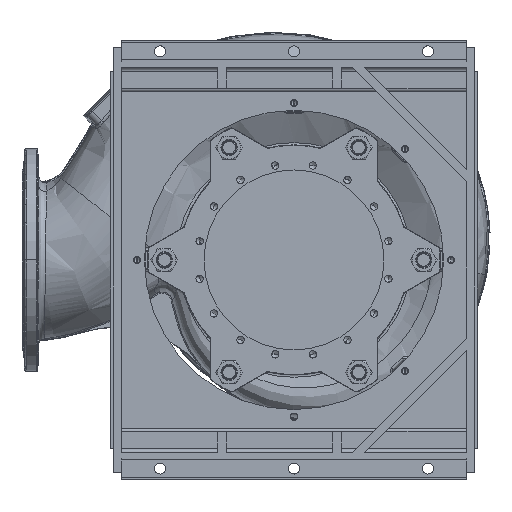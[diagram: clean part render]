
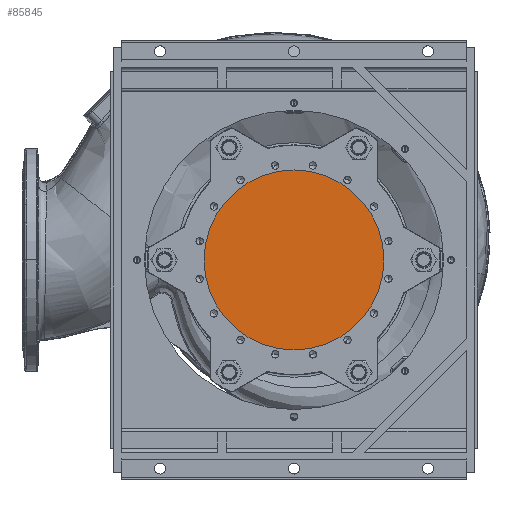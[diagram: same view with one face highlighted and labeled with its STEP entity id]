
A CAD part, front view. The second image highlights one B-rep face of the part: STEP entity #85845.
In plain terms, the highlighted planar face has unit normal (0, -1, 0).
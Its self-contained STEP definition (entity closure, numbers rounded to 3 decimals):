
#225 = CIRCLE ( 'NONE', #126031, 215. ) ;
#2918 = FACE_OUTER_BOUND ( 'NONE', #149643, .T. ) ;
#12629 = ORIENTED_EDGE ( 'NONE', *, *, #55683, .T. ) ;
#19045 = ORIENTED_EDGE ( 'NONE', *, *, #254585, .T. ) ;
#41255 = CIRCLE ( 'NONE', #111239, 215. ) ;
#55683 = EDGE_CURVE ( 'NONE', #208111, #197271, #41255, .T. ) ;
#57157 = DIRECTION ( 'NONE',  ( 0., -1., 0. ) ) ;
#85845 = ADVANCED_FACE ( 'NONE', ( #2918 ), #213766, .T. ) ;
#91008 = DIRECTION ( 'NONE',  ( 0., -1., 0. ) ) ;
#109439 = AXIS2_PLACEMENT_3D ( 'NONE', #175052, #57157, #194811 ) ;
#111239 = AXIS2_PLACEMENT_3D ( 'NONE', #112817, #250422, #132654 ) ;
#112817 = CARTESIAN_POINT ( 'NONE',  ( 0., -639.494, 0. ) ) ;
#126031 = AXIS2_PLACEMENT_3D ( 'NONE', #209015, #91008, #228751 ) ;
#132654 = DIRECTION ( 'NONE',  ( 0., 0., 1. ) ) ;
#149643 = EDGE_LOOP ( 'NONE', ( #19045, #12629 ) ) ;
#166161 = CARTESIAN_POINT ( 'NONE',  ( 0., -639.494, -215. ) ) ;
#167533 = CARTESIAN_POINT ( 'NONE',  ( 0., -639.494, 215. ) ) ;
#175052 = CARTESIAN_POINT ( 'NONE',  ( 0., -639.494, 0. ) ) ;
#194811 = DIRECTION ( 'NONE',  ( 0., 0., 1. ) ) ;
#197271 = VERTEX_POINT ( 'NONE', #166161 ) ;
#208111 = VERTEX_POINT ( 'NONE', #167533 ) ;
#209015 = CARTESIAN_POINT ( 'NONE',  ( 0., -639.494, 0. ) ) ;
#213766 = PLANE ( 'NONE',  #109439 ) ;
#228751 = DIRECTION ( 'NONE',  ( 0., 0., 1. ) ) ;
#250422 = DIRECTION ( 'NONE',  ( 0., -1., 0. ) ) ;
#254585 = EDGE_CURVE ( 'NONE', #197271, #208111, #225, .T. ) ;
